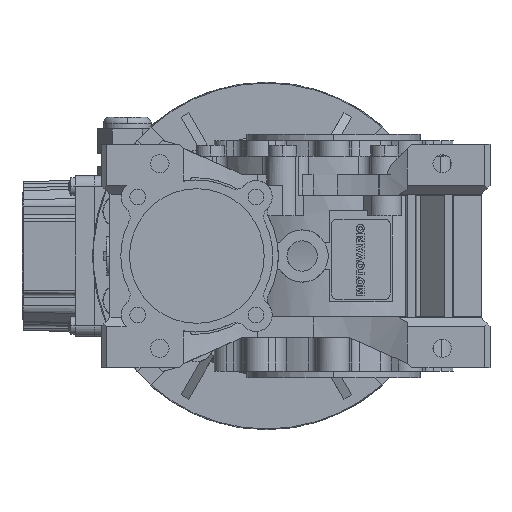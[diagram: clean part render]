
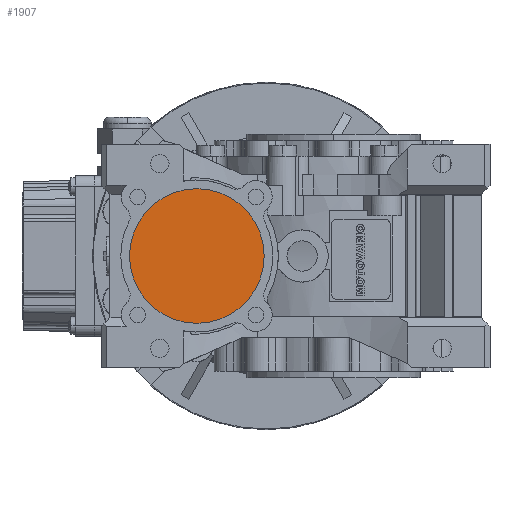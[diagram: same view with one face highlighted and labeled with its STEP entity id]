
A CAD part, left-side view. The second image highlights one B-rep face of the part: STEP entity #1907.
In plain terms, the highlighted planar face has unit normal (-1, 0, 0).
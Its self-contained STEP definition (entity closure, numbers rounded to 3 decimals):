
#1907 = ADVANCED_FACE( '', ( #7130 ), #7131, .F. );
#7130 = FACE_OUTER_BOUND( '', #15131, .T. );
#7131 = PLANE( '', #15132 );
#15131 = EDGE_LOOP( '', ( #31123, #31124 ) );
#15132 = AXIS2_PLACEMENT_3D( '', #31125, #31126, #31127 );
#31123 = ORIENTED_EDGE( '', *, *, #53400, .T. );
#31124 = ORIENTED_EDGE( '', *, *, #56876, .T. );
#31125 = CARTESIAN_POINT( '', ( -70.5, 63., -15.5 ) );
#31126 = DIRECTION( '', ( 1., 0., 0. ) );
#31127 = DIRECTION( '', ( 0., 0., 1. ) );
#53400 = EDGE_CURVE( '', #64295, #64299, #64301, .T. );
#56876 = EDGE_CURVE( '', #64299, #64295, #70067, .T. );
#64295 = VERTEX_POINT( '', #82080 );
#64299 = VERTEX_POINT( '', #82085 );
#64301 = CIRCLE( '', #82088, 31. );
#70067 = CIRCLE( '', #92449, 31. );
#82080 = CARTESIAN_POINT( '', ( -70.5, 63., -31. ) );
#82085 = CARTESIAN_POINT( '', ( -70.5, 63., 31. ) );
#82088 = AXIS2_PLACEMENT_3D( '', #112234, #112235, #112236 );
#92449 = AXIS2_PLACEMENT_3D( '', #117953, #117954, #117955 );
#112234 = CARTESIAN_POINT( '', ( -70.5, 63., 0. ) );
#112235 = DIRECTION( '', ( -1., 0., 0. ) );
#112236 = DIRECTION( '', ( 0., 0., -1. ) );
#117953 = CARTESIAN_POINT( '', ( -70.5, 63., 0. ) );
#117954 = DIRECTION( '', ( -1., 0., 0. ) );
#117955 = DIRECTION( '', ( 0., 0., -1. ) );
